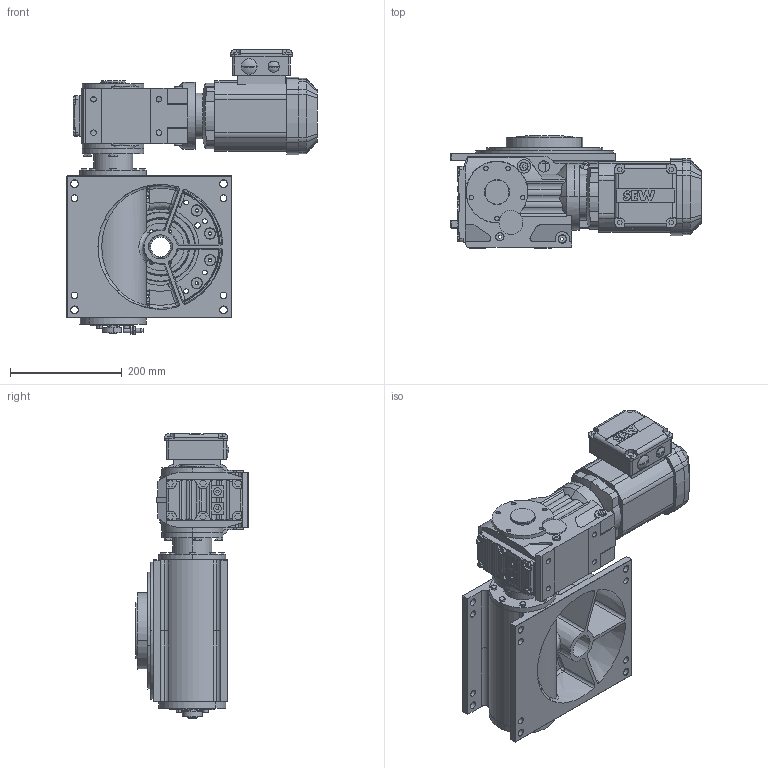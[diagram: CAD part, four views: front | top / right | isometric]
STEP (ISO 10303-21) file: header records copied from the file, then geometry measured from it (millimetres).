
FILE_DESCRIPTION (( 'STEP AP214' ), '1' );
FILE_NAME ('M210_SEW_KA37DRS71S4_D1_12.STEP', '2020-06-17T04:01:42', ( '' ), ( '' ), 'SwSTEP 2.0', 'SolidWorks 2020', '' );
FILE_SCHEMA (( 'AUTOMOTIVE_DESIGN' ));
Length unit declared in the file: millimetre
Products named in the file (1): M210_SEW_KA37DRS71S4_D1_12
Bounding box: 449 x 201 x 510.5 mm (x, y, z)
Surface area: 853815.2 mm2 (no closed solid volume)
Topology: 0 solids, 70 shells, 1513 faces, 4546 edges, 3026 vertices
Faces by surface type: plane 651, cylinder 500, cone 200, bspline 105, torus 53, sphere 4
Entity records: 78201 total; most frequent: CARTESIAN_POINT 21430, DIRECTION 8373, ORIENTED_EDGE 7779, EDGE_CURVE 4522, AXIS2_PLACEMENT_3D 3063, VERTEX_POINT 3026, LINE 2247, VECTOR 2247
